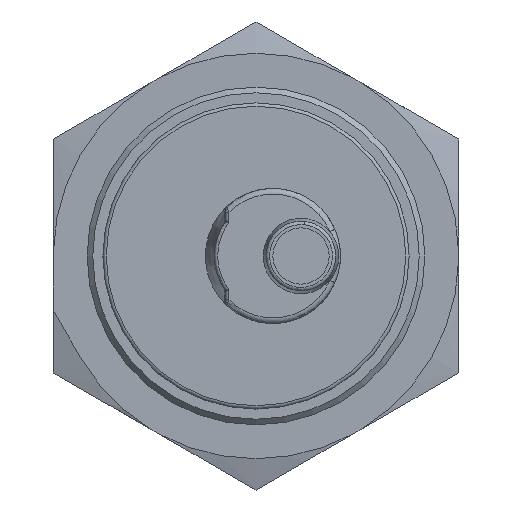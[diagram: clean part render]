
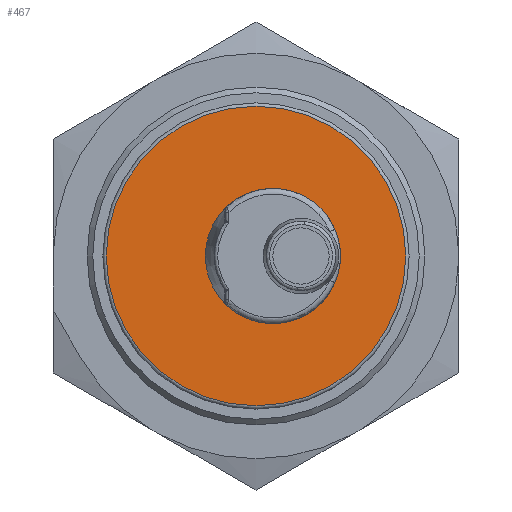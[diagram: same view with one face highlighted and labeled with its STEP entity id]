
A CAD part, front view. The second image highlights one B-rep face of the part: STEP entity #467.
In plain terms, the highlighted planar face has unit normal (0, -1, 0).
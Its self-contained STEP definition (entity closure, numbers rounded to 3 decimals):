
#282=B_SPLINE_CURVE_WITH_KNOTS('',3,(#2413,#2414,#2415,#2416,#2417,#2418,
#2419,#2420,#2421,#2422),.UNSPECIFIED.,.F.,.F.,(4,3,3,4),(0.,0.281,
0.64,1.),.UNSPECIFIED.);
#283=B_SPLINE_CURVE_WITH_KNOTS('',3,(#2455,#2456,#2457,#2458,#2459,#2460,
#2461),.UNSPECIFIED.,.F.,.F.,(4,3,4),(0.,0.5,1.),
 .UNSPECIFIED.);
#340=PLANE('',#1724);
#467=ADVANCED_FACE('',(#588,#589),#340,.F.);
#588=FACE_BOUND('',#647,.T.);
#589=FACE_BOUND('',#648,.T.);
#647=EDGE_LOOP('',(#803,#804,#805,#806));
#648=EDGE_LOOP('',(#807));
#803=ORIENTED_EDGE('',*,*,#1388,.T.);
#804=ORIENTED_EDGE('',*,*,#1406,.T.);
#805=ORIENTED_EDGE('',*,*,#1407,.T.);
#806=ORIENTED_EDGE('',*,*,#1408,.T.);
#807=ORIENTED_EDGE('',*,*,#1383,.T.);
#1228=VERTEX_POINT('',#2303);
#1231=VERTEX_POINT('',#2328);
#1232=VERTEX_POINT('',#2330);
#1242=VERTEX_POINT('',#2412);
#1243=VERTEX_POINT('',#2454);
#1383=EDGE_CURVE('',#1228,#1228,#1615,.T.);
#1388=EDGE_CURVE('',#1232,#1231,#1617,.T.);
#1406=EDGE_CURVE('',#1231,#1242,#282,.T.);
#1407=EDGE_CURVE('',#1242,#1243,#1624,.T.);
#1408=EDGE_CURVE('',#1243,#1232,#283,.T.);
#1615=CIRCLE('',#1708,13.3);
#1617=CIRCLE('',#1711,6.);
#1624=CIRCLE('',#1723,6.);
#1708=AXIS2_PLACEMENT_3D('',#2302,#1891,#1892);
#1711=AXIS2_PLACEMENT_3D('',#2329,#1897,#1898);
#1723=AXIS2_PLACEMENT_3D('',#2453,#1927,#1928);
#1724=AXIS2_PLACEMENT_3D('',#2462,#1929,#1930);
#1891=DIRECTION('',(0.,-1.,0.));
#1892=DIRECTION('',(0.,0.,1.));
#1897=DIRECTION('',(0.,1.,0.));
#1898=DIRECTION('',(-1.,0.,0.));
#1927=DIRECTION('',(0.,1.,0.));
#1928=DIRECTION('',(0.,0.,1.));
#1929=DIRECTION('',(0.,1.,0.));
#1930=DIRECTION('',(0.,0.,-1.));
#2302=CARTESIAN_POINT('',(8.584,19.299,0.));
#2303=CARTESIAN_POINT('',(8.584,19.299,13.3));
#2328=CARTESIAN_POINT('',(5.899,19.299,4.3));
#2329=CARTESIAN_POINT('',(10.084,19.299,0.));
#2330=CARTESIAN_POINT('',(5.899,19.299,-4.3));
#2412=CARTESIAN_POINT('',(6.059,19.299,4.45));
#2413=CARTESIAN_POINT('',(5.899,19.299,4.3));
#2414=CARTESIAN_POINT('',(5.914,19.299,4.314));
#2415=CARTESIAN_POINT('',(5.928,19.299,4.329));
#2416=CARTESIAN_POINT('',(5.942,19.299,4.344));
#2417=CARTESIAN_POINT('',(5.961,19.299,4.363));
#2418=CARTESIAN_POINT('',(5.98,19.299,4.381));
#2419=CARTESIAN_POINT('',(6.,19.299,4.398));
#2420=CARTESIAN_POINT('',(6.02,19.299,4.416));
#2421=CARTESIAN_POINT('',(6.04,19.299,4.433));
#2422=CARTESIAN_POINT('',(6.059,19.299,4.45));
#2453=CARTESIAN_POINT('',(10.084,19.299,0.));
#2454=CARTESIAN_POINT('',(6.059,19.299,-4.45));
#2455=CARTESIAN_POINT('',(6.059,19.299,-4.45));
#2456=CARTESIAN_POINT('',(6.032,19.299,-4.426));
#2457=CARTESIAN_POINT('',(6.004,19.299,-4.403));
#2458=CARTESIAN_POINT('',(5.977,19.299,-4.378));
#2459=CARTESIAN_POINT('',(5.95,19.299,-4.353));
#2460=CARTESIAN_POINT('',(5.925,19.299,-4.325));
#2461=CARTESIAN_POINT('',(5.899,19.299,-4.3));
#2462=CARTESIAN_POINT('',(8.584,19.299,0.));
